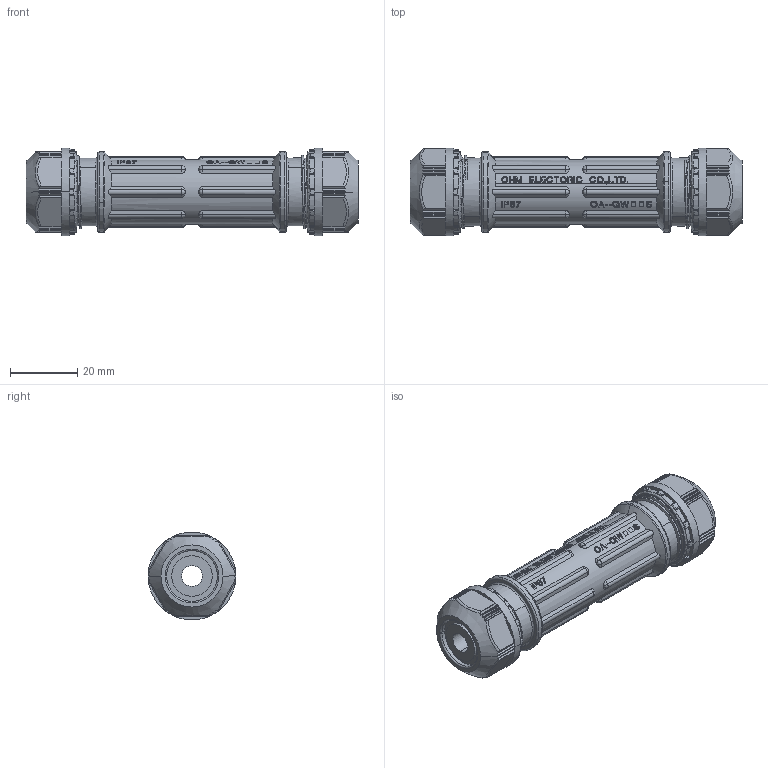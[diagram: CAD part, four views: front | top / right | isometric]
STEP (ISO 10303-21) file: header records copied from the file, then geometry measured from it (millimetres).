
FILE_DESCRIPTION(('Creo Elements/Direct Modeling STEP Export'),'2;1');
FILE_NAME('20120831_OA-QW09SN.stp','2012-09-19T15:20:39',(''),(''),'Creo Elements/Direct Modeling STEP processor for AP214 (Solid Model)','Creo Elements/Direct Modeling 18.0B 02-Dec-2011 (C) Parametric Technology GmbH','');
FILE_SCHEMA(('AUTOMOTIVE_DESIGN { 1 0 10303 214 1 1 1 1 }'));
Products named in the file (10): OA-QW_本体; G13-09A_R; G13-09B_R; G13-09_R; R側; G13-09B_L; G13-09A_L; G13-09_L; L側; OA-QW09SN
Assembly tree (9 placements, depth 4):
  OA-QW09SN
    L側
      G13-09_L
        G13-09A_L
        G13-09B_L
    R側
      G13-09_R
        G13-09B_R
        G13-09A_R
    OA-QW_本体
Bounding box: 98.4 x 26 x 26 mm (x, y, z)
Volume: 23948.9 mm3; surface area: 19760 mm2
Topology: 5 solids, 5 shells, 1718 faces, 4766 edges, 3119 vertices
Faces by surface type: plane 1295, cylinder 293, torus 60, cone 52, bspline 18
Entity records: 66473 total; most frequent: CARTESIAN_POINT 22610, ORIENTED_EDGE 9532, DIRECTION 8597, EDGE_CURVE 4766, VERTEX_POINT 3119, AXIS2_PLACEMENT_3D 2902, VECTOR 2793, LINE 2793
